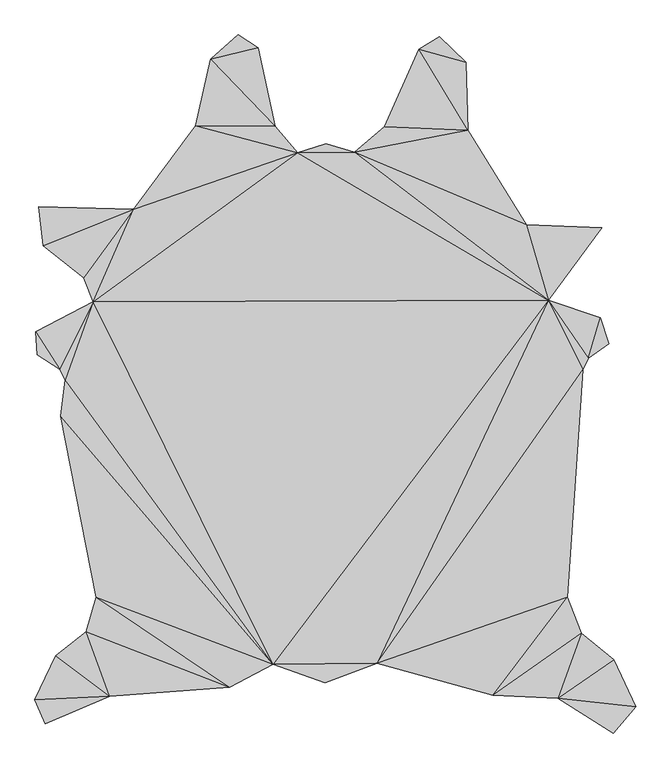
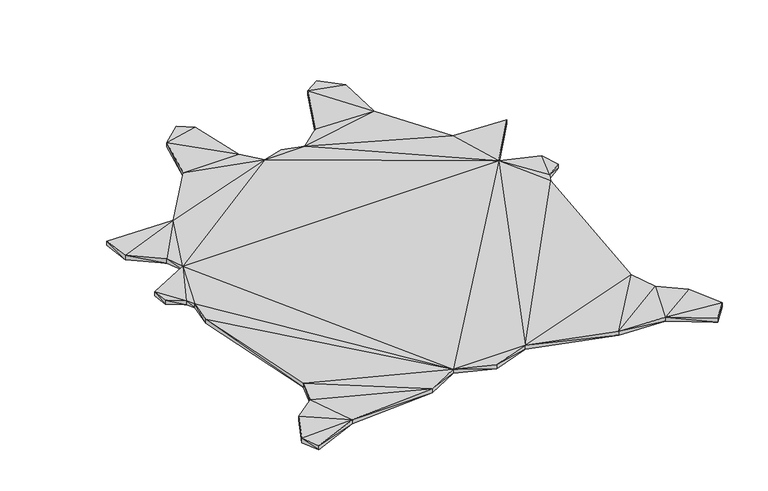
"""IFC4 building model written with IfcOpenShell, lengths in millimetres: geographic element geometry, Enscape AssetDefinition - Rug 11, Cowhide 1 : Enscape AssetDefinition - Rug 11, Cowhide 1."""

import ifcopenshell
import ifcopenshell.guid

model = None  # the IFC model being written
_history = None  # IfcOwnerHistory: only IFC2X3 demands one
_inside = {}  # id of a spatial element -> (the spatial element, [elements in it])
_under = {}  # id of a project, library or spatial element -> (it, [spatial elements below it])
_declared = {}  # id of a project -> (the project, [libraries it declares])
_typed = {}  # id of a type object -> (the type object, [elements of that type])
_made_of = {}  # id of a material, layer set ... -> (it, [elements and type objects made of it])


def new_model(schema):
    """Start an empty IFC model of exactly this schema.

    Asked for "IFC4X3", IfcOpenShell would pick the latest addendum, in which some entities
    have other attributes; the version numbers below select the first issue.
    IFC2X3 requires an IfcOwnerHistory on every rooted entity: one is made here for all.
    """
    global model, _history
    if schema == "IFC4X3":
        model = ifcopenshell.file(schema_version=(4, 3, 0, 0))
    else:
        model = ifcopenshell.file(schema=schema)
    _inside.clear()
    _under.clear()
    _declared.clear()
    _typed.clear()
    _made_of.clear()
    _history = None
    if model.schema == "IFC2X3":
        org = make("IfcOrganization", Name="unknown")
        user = make(
            "IfcPersonAndOrganization",
            ThePerson=make("IfcPerson", FamilyName="unknown"),
            TheOrganization=org,
        )
        app = make(
            "IfcApplication",
            ApplicationDeveloper=org,
            Version="unknown",
            ApplicationFullName="unknown",
            ApplicationIdentifier="unknown",
        )
        _history = make(
            "IfcOwnerHistory",
            OwningUser=user,
            OwningApplication=app,
            ChangeAction="ADDED",
            CreationDate=0,
        )
    return model


def make(cls, **values):
    """One entity of the class cls with the attributes given. An attribute that is None is left unset."""
    return model.create_entity(
        cls, **{name: value for name, value in values.items() if value is not None}
    )


def rooted(cls, **values):
    """An entity with a GlobalId (a new one), such as an element, a storey or a relation."""
    return make(cls, GlobalId=ifcopenshell.guid.new(), OwnerHistory=_history, **values)


def si_unit(unit_type, name, prefix=None):
    """IfcSIUnit, for example si_unit("LENGTHUNIT", "METRE", prefix="MILLI")."""
    return make("IfcSIUnit", UnitType=unit_type, Prefix=prefix, Name=name)


def assignment(units):
    """IfcUnitAssignment: the units of a project."""
    return None if units is None else make("IfcUnitAssignment", Units=units)


def point(xyz):
    """IfcCartesianPoint."""
    return None if xyz is None else make("IfcCartesianPoint", Coordinates=xyz)


def direction(xyz):
    """IfcDirection."""
    return None if xyz is None else make("IfcDirection", DirectionRatios=xyz)


def frame(location, z_axis=None, x_axis=None):
    """IfcAxis2Placement3D, a coordinate frame: its origin and axes. An axis left out is left unset."""
    return make(
        "IfcAxis2Placement3D",
        Location=point(location),
        Axis=direction(z_axis),
        RefDirection=direction(x_axis),
    )


def origin():
    """The frame at (0, 0, 0) with its axes left unset."""
    return frame((0.0, 0.0, 0.0))


def place(relative_to, where):
    """IfcLocalPlacement: puts the frame where relative to a parent placement (None: the world)."""
    return make(
        "IfcLocalPlacement", PlacementRelTo=relative_to, RelativePlacement=where
    )


def context(
    kind, dimensions, precision=None, world=None, true_north=None, identifier=None
):
    """IfcGeometricRepresentationContext, for example the 3D "Model" context."""
    return make(
        "IfcGeometricRepresentationContext",
        ContextIdentifier=identifier,
        ContextType=kind,
        CoordinateSpaceDimension=dimensions,
        Precision=precision,
        WorldCoordinateSystem=world,
        TrueNorth=true_north,
    )


def project(units=None, contexts=None):
    """IfcProject with its units and contexts."""
    return rooted(
        "IfcProject",
        Name="project",
        RepresentationContexts=contexts,
        UnitsInContext=assignment(units),
    )


def spatial(cls, under=None, at=None, **own):
    """A site, building, storey or space (cls), placed at a placement, below another one or the project."""
    s = rooted(cls, ObjectPlacement=at, **own)
    if under is not None:
        _under.setdefault(under.id(), (under, []))[1].append(s)
    return s


def faces_of(points, faces, orient=None, outer=None):
    """IfcFace entities. A face is a list of loops; a loop is a list of indices into points, from 0.

    orient and outer hold one flag for each loop. By default every Orientation is true, the
    first loop of a face is its IfcFaceOuterBound and the others are IfcFaceBound.
    """
    made = []
    for i, loops in enumerate(faces):
        bounds = []
        for j, loop in enumerate(loops):
            is_outer = j == 0 if outer is None else outer[i][j]
            bounds.append(
                make(
                    "IfcFaceOuterBound" if is_outer else "IfcFaceBound",
                    Bound=make("IfcPolyLoop", Polygon=[points[k] for k in loop]),
                    Orientation=True if orient is None else orient[i][j],
                )
            )
        made.append(make("IfcFace", Bounds=bounds))
    return made


def faceted_brep(points, faces, orient=None, outer=None, voids=None):
    """IfcFacetedBrep: a solid bounded by flat faces; with voids (closed shells), ...WithVoids."""
    shared = [point(p) for p in points]
    hull = make("IfcClosedShell", CfsFaces=faces_of(shared, faces, orient, outer))
    if voids is None:
        return make("IfcFacetedBrep", Outer=hull)
    return make(
        "IfcFacetedBrepWithVoids",
        Outer=hull,
        Voids=[
            make(cls, CfsFaces=faces_of(shared, fs, o, b)) for cls, fs, o, b in voids
        ],
    )


def shape(context_of_items, identifier, shape_type, items):
    """IfcShapeRepresentation: the items that make up one representation, for example the "Body"."""
    return make(
        "IfcShapeRepresentation",
        ContextOfItems=context_of_items,
        RepresentationIdentifier=identifier,
        RepresentationType=shape_type,
        Items=items,
    )


def source(mapping_origin, context_of_items, identifier, shape_type, items):
    """IfcRepresentationMap: a shape defined once, which mapped items show again and again."""
    return make(
        "IfcRepresentationMap",
        MappingOrigin=mapping_origin,
        MappedRepresentation=shape(context_of_items, identifier, shape_type, items),
    )


def transform(
    local_origin,
    x_axis=None,
    y_axis=None,
    z_axis=None,
    scale=None,
    scale2=None,
    scale3=None,
    uniform=True,
):
    """IfcCartesianTransformationOperator3D, or its non-uniform kind. x_axis, y_axis, z_axis: its Axis1, 2, 3."""
    if uniform:
        return make(
            "IfcCartesianTransformationOperator3D",
            Axis1=direction(x_axis),
            Axis2=direction(y_axis),
            LocalOrigin=point(local_origin),
            Scale=scale,
            Axis3=direction(z_axis),
        )
    return make(
        "IfcCartesianTransformationOperator3DnonUniform",
        Axis1=direction(x_axis),
        Axis2=direction(y_axis),
        LocalOrigin=point(local_origin),
        Scale=scale,
        Axis3=direction(z_axis),
        Scale2=scale2,
        Scale3=scale3,
    )


def mapped(mapping_source, mapping_target):
    """IfcMappedItem: shows the shape of a source again, moved by a transform."""
    return make(
        "IfcMappedItem", MappingSource=mapping_source, MappingTarget=mapping_target
    )


def made_of(thing, what):
    """Note that an element or type object is made of a material, layer set ...; save() writes the relation."""
    if what is not None:
        _made_of.setdefault(what.id(), (what, []))[1].append(thing)
    return thing


def element(
    cls,
    number,
    at=None,
    inside=None,
    cuts=None,
    type_object=None,
    material=None,
    context=None,
    identifier="Body",
    shape_type=None,
    held_by="IfcProductDefinitionShape",
    body=None,
    shapes=None,
    **own,
):
    """One element of the class cls, such as IfcWall. Its Tag is "e" and its number.

    at: its placement. inside: the storey or other place that contains it. cuts: it is an
    opening in that element (IfcRelVoidsElement). A single representation is given by context,
    identifier, shape_type and body (its items); several are given by shapes. held_by: the class
    of the entity that holds the representations. save() writes the other relations.
    """
    e = rooted(cls, Tag="e%d" % number, ObjectPlacement=at, **own)
    if body is not None:
        shapes = [shape(context, identifier, shape_type, body)]
    if shapes is not None:
        e.Representation = make(held_by, Representations=shapes)
    if inside is not None:
        _inside.setdefault(inside.id(), (inside, []))[1].append(e)
    if cuts is not None:
        rooted(
            "IfcRelVoidsElement", RelatingBuildingElement=cuts, RelatedOpeningElement=e
        )
    if type_object is not None:
        _typed.setdefault(type_object.id(), (type_object, []))[1].append(e)
    return made_of(e, material)


def aggregate(whole, parts):
    """IfcRelAggregates: a whole, such as a stair, and the parts it consists of."""
    return rooted("IfcRelAggregates", RelatingObject=whole, RelatedObjects=parts)


def save(model, path):
    """Write the relations noted so far, then the file.

    IfcRelAggregates (storeys below a building ...), IfcRelContainedInSpatialStructure (elements
    in a storey), IfcRelDefinesByType, IfcRelAssociatesMaterial and IfcRelDeclares: one each for
    every whole, place, type object, material and project.
    """
    for whole, parts in _under.values():
        aggregate(whole, parts)
    for where, things in _inside.values():
        rooted(
            "IfcRelContainedInSpatialStructure",
            RelatedElements=things,
            RelatingStructure=where,
        )
    for kind, things in _typed.values():
        rooted("IfcRelDefinesByType", RelatedObjects=things, RelatingType=kind)
    for what, things in _made_of.values():
        rooted("IfcRelAssociatesMaterial", RelatedObjects=things, RelatingMaterial=what)
    for by, libraries in _declared.values():
        rooted("IfcRelDeclares", RelatingContext=by, RelatedDefinitions=libraries)
    model.write(path)


def geographic_element_e62986f0(model_context):
    return source(origin(), model_context, "Body", "Brep", [
        faceted_brep([(-82.758002, 761.8629932, 18.8239999), (90.7339975, 762.1750236, 18.8239999), (3.545, 788.079977, 18.8239999), (181.6270053, 839.8159742, 18.8239999), (90.7339975, 762.1750236, 0.0), (3.545, 788.079977, 0.0), (680.0389886, 313.4399951, 18.8239999), (611.7380261, 542.764008, 18.8239999), (434.9440038, 830.2249908, 18.8239999), (-82.758002, 761.8629932, 0.0), (680.0389886, 313.4399951, 0.0), (-703.5819888, 309.2930019, 0.0), (-581.8870068, 589.3369913, 0.0), (-392.9550052, 842.7010179, 0.0), (-151.5319943, 841.8679833, 0.0), (-392.9550052, 842.7010179, 18.8239999), (-347.6540148, 1044.7829962, 18.8239999), (-347.6540148, 1044.7829962, 0.0), (-151.5319943, 841.8679833, 18.8239999), (-203.2900006, 1080.1429749, 0.0), (-263.4690106, 1119.114995, 18.8239999), (-263.4690106, 1119.114995, 0.0), (-203.2900006, 1080.1429749, 18.8239999), (-581.8870068, 589.3369913, 18.8239999), (-703.5819888, 309.2930019, 18.8239999), (-732.6300144, 380.8420002, 0.0), (-856.8660021, 479.2920053, 0.0), (-869.4170117, 596.4829922, 0.0), (-732.6300144, 380.8420002, 18.8239999), (-856.8660021, 479.2920053, 18.8239999), (-869.4170117, 596.4829922, 18.8239999), (-157.306999, -792.1969891, 0.0), (-789.0790105, 71.1029992, 0.0), (-806.5869808, 104.2890027, 0.0), (-878.929019, 217.3330039, 0.0), (-806.5869808, 104.2890027, 18.8239999), (-873.61902, 146.9269991, 18.8239999), (-873.61902, 146.9269991, 0.0), (-878.929019, 217.3330039, 18.8239999), (-789.0790105, 71.1029992, 18.8239999), (-157.306999, -792.1969891, 18.8239999), (-802.981019, -38.9860012, 18.8239999), (-802.981019, -38.9860012, 0.0), (-694.9970126, -588.8569951, 0.0), (-694.9970126, -588.8569951, 18.8239999), (-290.1299894, -861.8810177, 0.0), (-725.5690098, -694.5189834, 0.0), (-725.5690098, -694.5189834, 18.8239999), (-290.1299894, -861.8810177, 18.8239999), (-653.429985, -888.9759779, 0.0), (-818.3590174, -766.8120265, 0.0), (-653.429985, -888.9759779, 18.8239999), (-818.3590174, -766.8120265, 18.8239999), (-881.4589977, -900.5789757, 0.0), (-849.636972, -973.5479951, 18.8239999), (-849.636972, -973.5479951, 0.0), (-881.4589977, -900.5789757, 18.8239999), (0.376, -848.6250043, 18.8239999), (0.376, -848.6250043, 0.0), (158.1709981, -789.9000049, 18.8239999), (158.1709981, -789.9000049, 0.0), (737.7259731, -588.8689756, 0.0), (510.9040141, -887.1409893, 0.0), (784.8569751, 101.7210037, 0.0), (510.9040141, -887.1409893, 18.8239999), (779.088974, -698.8589764, 0.0), (708.3070278, -896.2249756, 0.0), (737.7259731, -588.8689756, 18.8239999), (779.088974, -698.8589764, 18.8239999), (878.354013, -779.1190147, 18.8239999), (878.354013, -779.1190147, 0.0), (708.3070278, -896.2249756, 18.8239999), (784.8569751, 101.7210037, 18.8239999), (800.4559875, 137.4049932, 18.8239999), (800.4559875, 137.4049932, 0.0), (837.5099897, 260.6729865, 0.0), (862.7769947, 180.3179979, 0.0), (862.7769947, 180.3179979, 18.8239999), (837.5099897, 260.6729865, 18.8239999), (611.7380261, 542.764008, 0.0), (842.4550295, 532.6920152, 0.0), (842.4550295, 532.6920152, 18.8239999), (434.9440038, 830.2249908, 0.0), (181.6270053, 839.8159742, 0.0), (285.3839993, 1075.9600401, 0.0), (428.6170006, 1035.6709957, 0.0), (285.3839993, 1075.9600401, 18.8239999), (347.9979932, 1113.83605, 18.8239999), (347.9979932, 1113.83605, 0.0), (428.6170006, 1035.6709957, 18.8239999), (877.5020242, -1001.5809536, 18.8239999), (877.5020242, -1001.5809536, 0.0), (944.667995, -920.8170176, 18.8239999), (944.667995, -920.8170176, 0.0)], [[[0, 1, 2]], [[1, 3, 4]], [[2, 1, 5]], [[1, 0, 6]], [[1, 6, 7]], [[1, 7, 8]], [[3, 1, 8]], [[5, 1, 4]], [[0, 2, 9]], [[9, 2, 5]], [[4, 9, 5]], [[9, 10, 11]], [[12, 9, 11]], [[9, 12, 13]], [[9, 13, 14]], [[4, 10, 9]], [[14, 0, 9]], [[15, 16, 13]], [[14, 13, 17]], [[12, 15, 13]], [[13, 16, 17]], [[18, 0, 14]], [[19, 14, 17]], [[19, 18, 14]], [[16, 20, 17]], [[19, 17, 21]], [[17, 20, 21]], [[22, 18, 19]], [[21, 22, 19]], [[18, 16, 15]], [[18, 22, 16]], [[18, 15, 0]], [[22, 20, 16]], [[20, 22, 21]], [[0, 15, 23]], [[0, 23, 24]], [[24, 6, 0]], [[23, 15, 12]], [[12, 25, 26]], [[12, 26, 27]], [[12, 11, 25]], [[27, 23, 12]], [[28, 29, 25]], [[25, 29, 26]], [[11, 28, 25]], [[29, 30, 26]], [[26, 30, 27]], [[30, 23, 27]], [[23, 30, 29]], [[23, 29, 28]], [[24, 28, 11]], [[24, 23, 28]], [[11, 31, 32]], [[11, 32, 33]], [[11, 10, 31]], [[11, 33, 34]], [[34, 24, 11]], [[35, 36, 33]], [[34, 33, 37]], [[33, 36, 37]], [[32, 35, 33]], [[38, 24, 34]], [[37, 38, 34]], [[36, 38, 37]], [[35, 38, 36]], [[39, 35, 32]], [[35, 24, 38]], [[39, 24, 35]], [[24, 40, 6]], [[40, 24, 39]], [[41, 39, 42]], [[40, 39, 41]], [[42, 39, 32]], [[31, 43, 42]], [[31, 42, 32]], [[43, 41, 42]], [[44, 41, 43]], [[40, 41, 44]], [[45, 46, 43]], [[43, 31, 45]], [[46, 44, 43]], [[47, 44, 46]], [[44, 48, 40]], [[47, 48, 44]], [[49, 50, 46]], [[45, 49, 46]], [[50, 47, 46]], [[48, 51, 45]], [[31, 48, 45]], [[45, 51, 49]], [[40, 48, 31]], [[47, 51, 48]], [[52, 47, 50]], [[51, 47, 52]], [[49, 53, 50]], [[53, 52, 50]], [[51, 54, 49]], [[53, 49, 55]], [[49, 54, 55]], [[51, 56, 54]], [[51, 52, 56]], [[56, 52, 53]], [[55, 56, 53]], [[54, 56, 55]], [[57, 40, 58]], [[59, 40, 57]], [[6, 40, 59]], [[58, 40, 31]], [[31, 60, 58]], [[60, 57, 58]], [[59, 57, 60]], [[61, 62, 60]], [[63, 61, 60]], [[10, 60, 31]], [[10, 63, 60]], [[62, 59, 60]], [[64, 59, 62]], [[65, 66, 62]], [[61, 65, 62]], [[66, 64, 62]], [[67, 68, 61]], [[61, 68, 65]], [[63, 67, 61]], [[68, 69, 65]], [[66, 65, 70]], [[65, 69, 70]], [[68, 64, 71]], [[71, 69, 68]], [[67, 64, 68]], [[71, 64, 66]], [[67, 59, 64]], [[72, 67, 63]], [[72, 59, 67]], [[6, 59, 72]], [[73, 72, 74]], [[6, 72, 73]], [[74, 72, 63]], [[10, 74, 63]], [[74, 75, 76]], [[74, 10, 75]], [[76, 73, 74]], [[77, 73, 76]], [[78, 73, 77]], [[6, 73, 78]], [[75, 77, 76]], [[78, 77, 75]], [[10, 78, 75]], [[6, 78, 10]], [[10, 79, 80]], [[4, 79, 10]], [[80, 6, 10]], [[7, 81, 79]], [[4, 82, 79]], [[82, 7, 79]], [[79, 81, 80]], [[81, 6, 80]], [[7, 6, 81]], [[8, 7, 82]], [[82, 4, 83]], [[84, 85, 82]], [[82, 83, 84]], [[85, 8, 82]], [[4, 3, 83]], [[3, 86, 83]], [[83, 86, 84]], [[86, 87, 84]], [[84, 88, 85]], [[84, 87, 88]], [[89, 8, 85]], [[88, 89, 85]], [[87, 89, 88]], [[86, 89, 87]], [[86, 8, 89]], [[86, 3, 8]], [[90, 71, 91]], [[92, 71, 90]], [[71, 92, 69]], [[91, 71, 66]], [[66, 93, 91]], [[93, 90, 91]], [[92, 90, 93]], [[69, 92, 70]], [[70, 92, 93]], [[66, 70, 93]]]),
    ])


if __name__ == "__main__":
    model = new_model("IFC4")
    model_context = context("Model", 3, world=origin())
    ifc_project = project(units=[si_unit("LENGTHUNIT", "METRE", prefix="MILLI")], contexts=[model_context])
    site = spatial("IfcSite", under=ifc_project)
    building = spatial("IfcBuilding", under=site)
    placement = place(None, origin())
    geographic_element_shape = geographic_element_e62986f0(model_context)
    element("IfcGeographicElement", 1, ObjectType="Enscape AssetDefinition - Rug 11, Cowhide 1 : Enscape AssetDefinition - Rug 11, Cowhide 1", at=placement, inside=building, context=model_context, shape_type="MappedRepresentation", body=[
        mapped(geographic_element_shape, transform((0.0, 0.0, 0.0), x_axis=(1.0, 0.0, 0.0), y_axis=(0.0, 1.0, 0.0), z_axis=(0.0, 0.0, 1.0))),
    ])
    save(model, "model.ifc")
